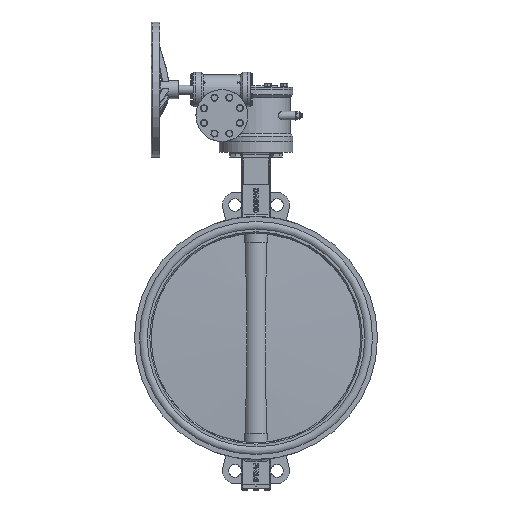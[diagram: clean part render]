
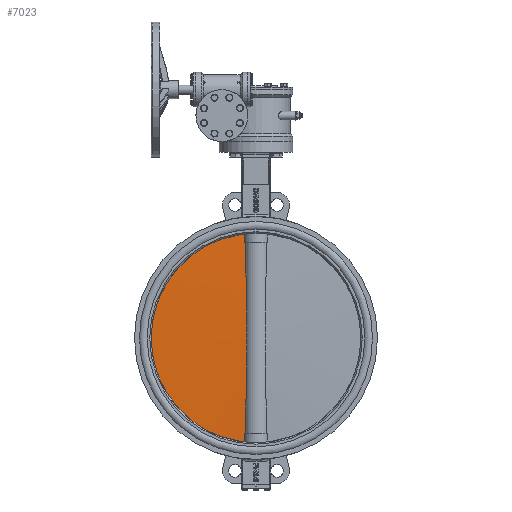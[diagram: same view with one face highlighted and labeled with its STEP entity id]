
A CAD part, left-side view. The second image highlights one B-rep face of the part: STEP entity #7023.
In plain terms, the highlighted spherical face has radius 6003.75 mm.
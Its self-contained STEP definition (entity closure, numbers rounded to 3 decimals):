
#7023=ADVANCED_FACE('',(#13941),#13943,.T.);
#13941=FACE_BOUND('',#13942,.T.);
#13942=EDGE_LOOP('',(#23237,#23238,#23239,#23240,#23241,#23242));
#13943=SPHERICAL_SURFACE('',#13944,6003.75);
#13944=AXIS2_PLACEMENT_3D('',#13945,#13946,#13947);
#13945=CARTESIAN_POINT('',(0.,-5980.75,0.));
#13946=DIRECTION('',(0.,-1.,0.));
#13947=DIRECTION('',(0.,0.,1.));
#23237=ORIENTED_EDGE('',*,*,#25902,.F.);
#23238=ORIENTED_EDGE('',*,*,#25914,.F.);
#23239=ORIENTED_EDGE('',*,*,#25915,.T.);
#23240=ORIENTED_EDGE('',*,*,#25916,.F.);
#23241=ORIENTED_EDGE('',*,*,#25885,.F.);
#23242=ORIENTED_EDGE('',*,*,#25913,.T.);
#25885=EDGE_CURVE('',#28471,#28472,#28473,.F.);
#25902=EDGE_CURVE('',#28504,#28489,#28506,.T.);
#25913=EDGE_CURVE('',#28471,#28489,#28521,.T.);
#25914=EDGE_CURVE('',#28522,#28504,#28523,.T.);
#25915=EDGE_CURVE('',#28522,#28524,#28525,.T.);
#25916=EDGE_CURVE('',#28472,#28524,#28526,.T.);
#28471=VERTEX_POINT('',#36042);
#28472=VERTEX_POINT('',#36043);
#28473=B_SPLINE_CURVE_WITH_KNOTS('',3,
(#36044,#36045,#36046,#36047,#36048,#36049,#36050,#36051,#36052,#36053,#36054,#36055,
#36056,#36057,#36058,#36059,#36060,#36061,#36062),
.UNSPECIFIED.,.F.,.F.,
(4,1,1,1,1,1,1,1,1,1,1,1,1,1,1,1,4),
(0.,0.047,0.094,0.141,0.188,0.234,
0.28,0.325,0.37,0.414,0.459,
0.505,0.552,0.6,0.683,0.816,
1.),
.UNSPECIFIED.);
#28489=VERTEX_POINT('',#36259);
#28504=VERTEX_POINT('',#36452);
#28506=B_SPLINE_CURVE_WITH_KNOTS('',3,
(#36457,#36458,#36459,#36460,#36461,#36462,#36463,#36464,#36465,#36466,#36467,#36468,
#36469,#36470,#36471,#36472,#36473,#36474,#36475),
.UNSPECIFIED.,.F.,.F.,
(4,1,1,1,1,1,1,1,1,1,1,1,1,1,1,1,4),
(0.,0.047,0.094,0.141,0.188,0.234,
0.28,0.325,0.37,0.414,0.459,
0.505,0.552,0.6,0.683,0.816,
1.),
.UNSPECIFIED.);
#28521=CIRCLE('',#36546,300.);
#28522=VERTEX_POINT('',#36550);
#28523=CIRCLE('',#36551,5997.538);
#28524=VERTEX_POINT('',#36555);
#28525=B_SPLINE_CURVE_WITH_KNOTS('',3,
(#36556,#36557,#36558,#36559,#36560,#36561,#36562,#36563,#36564,#36565,#36566,#36567,
#36568,#36569,#36570,#36571,#36572),
.UNSPECIFIED.,.F.,.F.,
(4,1,1,1,1,1,1,1,1,1,1,1,1,1,4),
(0.,0.072,0.142,0.209,0.293,0.372,
0.448,0.5,0.519,0.612,0.709,
0.792,0.859,0.929,1.),
.UNSPECIFIED.);
#28526=CIRCLE('',#36573,5997.538);
#36042=CARTESIAN_POINT('',(33.128,15.5,298.165));
#36043=CARTESIAN_POINT('',(32.54,16.699,273.05));
#36044=CARTESIAN_POINT('',(32.54,16.699,273.05));
#36045=CARTESIAN_POINT('',(32.549,16.681,273.446));
#36046=CARTESIAN_POINT('',(32.568,16.645,274.236));
#36047=CARTESIAN_POINT('',(32.596,16.591,275.419));
#36048=CARTESIAN_POINT('',(32.623,16.536,276.597));
#36049=CARTESIAN_POINT('',(32.651,16.482,277.768));
#36050=CARTESIAN_POINT('',(32.678,16.428,278.927));
#36051=CARTESIAN_POINT('',(32.705,16.375,280.076));
#36052=CARTESIAN_POINT('',(32.731,16.321,281.21));
#36053=CARTESIAN_POINT('',(32.758,16.268,282.334));
#36054=CARTESIAN_POINT('',(32.784,16.215,283.455));
#36055=CARTESIAN_POINT('',(32.811,16.162,284.584));
#36056=CARTESIAN_POINT('',(32.838,16.107,285.737));
#36057=CARTESIAN_POINT('',(32.865,16.05,286.916));
#36058=CARTESIAN_POINT('',(32.9,15.978,288.411));
#36059=CARTESIAN_POINT('',(32.952,15.871,290.627));
#36060=CARTESIAN_POINT('',(33.03,15.708,293.976));
#36061=CARTESIAN_POINT('',(33.092,15.577,296.629));
#36062=CARTESIAN_POINT('',(33.128,15.5,298.165));
#36259=CARTESIAN_POINT('',(33.128,15.5,-298.165));
#36452=CARTESIAN_POINT('',(32.54,16.699,-273.05));
#36457=CARTESIAN_POINT('',(32.54,16.699,-273.05));
#36458=CARTESIAN_POINT('',(32.549,16.681,-273.446));
#36459=CARTESIAN_POINT('',(32.568,16.645,-274.236));
#36460=CARTESIAN_POINT('',(32.596,16.591,-275.419));
#36461=CARTESIAN_POINT('',(32.623,16.536,-276.597));
#36462=CARTESIAN_POINT('',(32.651,16.482,-277.768));
#36463=CARTESIAN_POINT('',(32.678,16.428,-278.927));
#36464=CARTESIAN_POINT('',(32.705,16.375,-280.076));
#36465=CARTESIAN_POINT('',(32.731,16.321,-281.21));
#36466=CARTESIAN_POINT('',(32.758,16.268,-282.334));
#36467=CARTESIAN_POINT('',(32.784,16.215,-283.455));
#36468=CARTESIAN_POINT('',(32.811,16.162,-284.584));
#36469=CARTESIAN_POINT('',(32.838,16.107,-285.737));
#36470=CARTESIAN_POINT('',(32.865,16.05,-286.916));
#36471=CARTESIAN_POINT('',(32.9,15.978,-288.411));
#36472=CARTESIAN_POINT('',(32.952,15.871,-290.627));
#36473=CARTESIAN_POINT('',(33.03,15.708,-293.976));
#36474=CARTESIAN_POINT('',(33.092,15.577,-296.629));
#36475=CARTESIAN_POINT('',(33.128,15.5,-298.165));
#36546=AXIS2_PLACEMENT_3D('',#36547,#36548,#36549);
#36547=CARTESIAN_POINT('',(0.,15.5,0.));
#36548=DIRECTION('',(0.,1.,0.));
#36549=DIRECTION('',(0.11,0.,0.994));
#36550=CARTESIAN_POINT('',(30.754,16.709,-273.05));
#36551=AXIS2_PLACEMENT_3D('',#36552,#36553,#36554);
#36552=CARTESIAN_POINT('',(0.,-5980.75,-273.05));
#36553=DIRECTION('',(0.,0.,-1.));
#36554=DIRECTION('',(0.005,1.,0.));
#36555=CARTESIAN_POINT('',(30.754,16.709,273.05));
#36556=CARTESIAN_POINT('',(30.754,16.709,-273.05));
#36557=CARTESIAN_POINT('',(30.43,17.306,-259.976));
#36558=CARTESIAN_POINT('',(29.792,18.398,-234.198));
#36559=CARTESIAN_POINT('',(28.896,19.767,-196.079));
#36560=CARTESIAN_POINT('',(28.042,20.96,-155.828));
#36561=CARTESIAN_POINT('',(27.298,21.914,-113.82));
#36562=CARTESIAN_POINT('',(26.747,22.577,-70.428));
#36563=CARTESIAN_POINT('',(26.481,22.886,-32.736));
#36564=CARTESIAN_POINT('',(26.425,22.95,-6.048));
#36565=CARTESIAN_POINT('',(26.448,22.924,23.854));
#36566=CARTESIAN_POINT('',(26.646,22.696,61.903));
#36567=CARTESIAN_POINT('',(27.256,21.968,111.624));
#36568=CARTESIAN_POINT('',(28.058,20.937,156.663));
#36569=CARTESIAN_POINT('',(28.91,19.747,196.662));
#36570=CARTESIAN_POINT('',(29.8,18.386,234.5));
#36571=CARTESIAN_POINT('',(30.432,17.301,260.081));
#36572=CARTESIAN_POINT('',(30.754,16.709,273.05));
#36573=AXIS2_PLACEMENT_3D('',#36574,#36575,#36576);
#36574=CARTESIAN_POINT('',(0.,-5980.75,273.05));
#36575=DIRECTION('',(0.,0.,1.));
#36576=DIRECTION('',(0.005,1.,0.));
